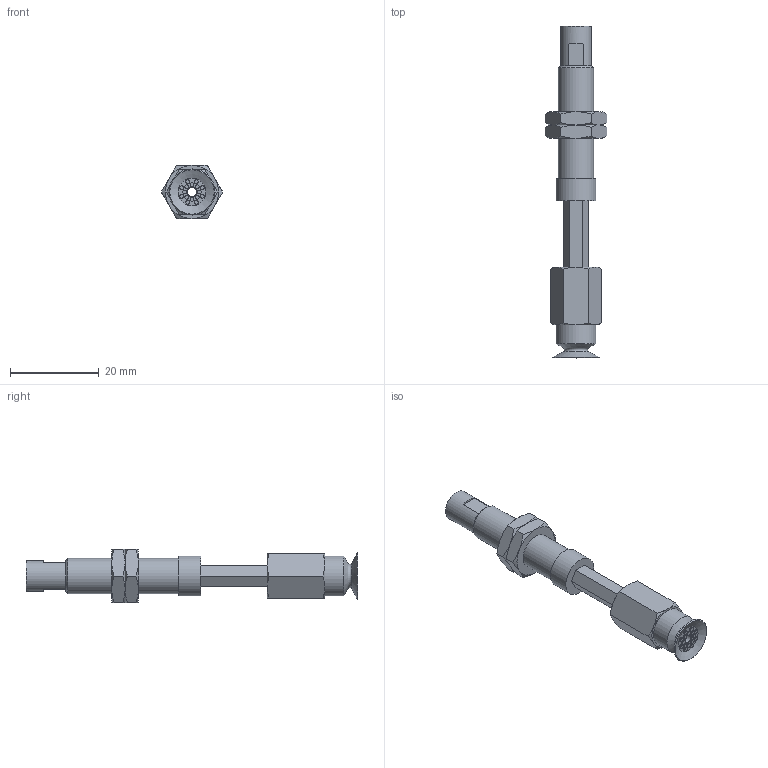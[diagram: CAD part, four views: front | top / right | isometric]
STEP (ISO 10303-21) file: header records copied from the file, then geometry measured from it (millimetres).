
FILE_DESCRIPTION(('STEP AP203'),'1');
FILE_NAME('.stp','2025-08-12T07:54:51',(' '),(' '),'Spatial InterOp 3D',' ',' ');
FILE_SCHEMA(('CONFIG_CONTROL_DESIGN'));
Length unit declared in the file: millimetre
Products named in the file (6): BNABPATH-10A-15-※; NAPATH-10A-15--M; NAPATH-10A-15--F; Nut-10A-S; BPAG-10A-※; ADAPTER
Assembly tree (6 placements, depth 2):
  BNABPATH-10A-15-※
    NAPATH-10A-15--M
    NAPATH-10A-15--F
    Nut-10A-S  x2
    BPAG-10A-※
    ADAPTER
Bounding box: 13.86 x 75 x 12 mm (x, y, z)
Volume: 3930.4 mm3; surface area: 4743.3 mm2
Topology: 6 solids, 6 shells, 155 faces, 312 edges, 192 vertices
Faces by surface type: plane 69, cone 46, cylinder 30, torus 10
Full cylindrical faces by diameter (mm): 0.9 x16, 2 x3, 4 x2, 4.134 x1, 6 x2, 7 x1, 7.188 x2, 8 x1, 9 x2
Entity records: 3620 total; most frequent: CARTESIAN_POINT 793, DIRECTION 542, ORIENTED_EDGE 418, AXIS2_PLACEMENT_3D 242, EDGE_LOOP 212, EDGE_CURVE 209, FACE_OUTER_BOUND 171, VERTEX_POINT 157
